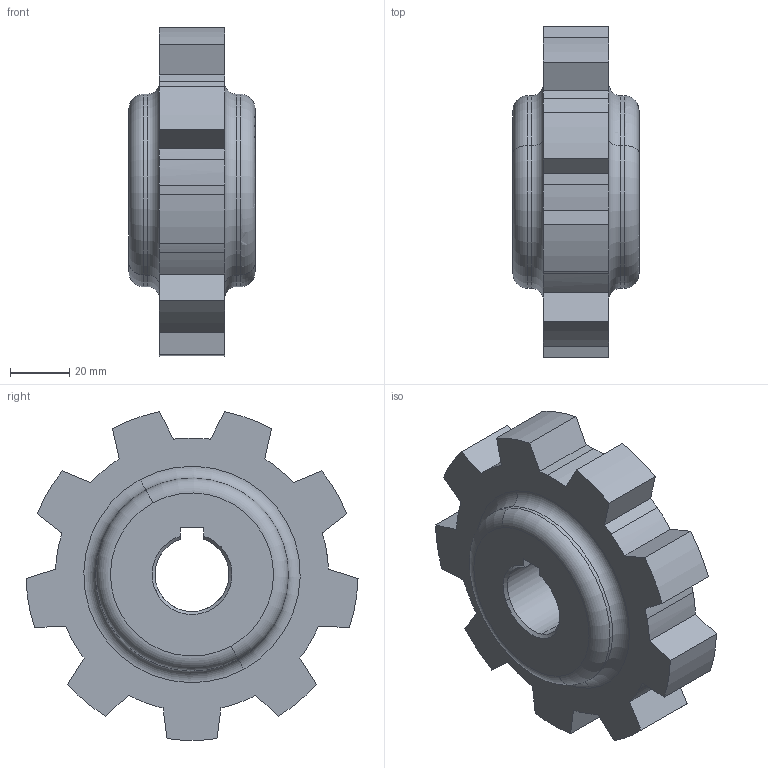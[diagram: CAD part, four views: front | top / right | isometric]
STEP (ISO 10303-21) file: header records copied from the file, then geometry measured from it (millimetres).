
FILE_DESCRIPTION(('STEP AP214'),'1');
FILE_NAME('P55101_02','2016-10-28T09:21:41',('dentellad'),(' '),'Spatial InterOp 3D',' ',' ');
FILE_SCHEMA(('automotive_design'));
Length unit declared in the file: millimetre
Products named in the file (1): 1
Bounding box: 42.5 x 111.97 x 110.83 mm (x, y, z)
Volume: 227785.6 mm3; surface area: 31693.4 mm2
Topology: 1 solids, 1 shells, 72 faces, 201 edges, 133 vertices
Faces by surface type: cylinder 33, plane 25, torus 8, cone 6
Entity records: 4047 total; most frequent: CARTESIAN_POINT 601, ORIENTED_EDGE 402, DIRECTION 386, STYLED_ITEM 269, PRESENTATION_STYLE_ASSIGNMENT 269, COLOUR_RGB 269, EDGE_CURVE 201, CURVE_STYLE 196
